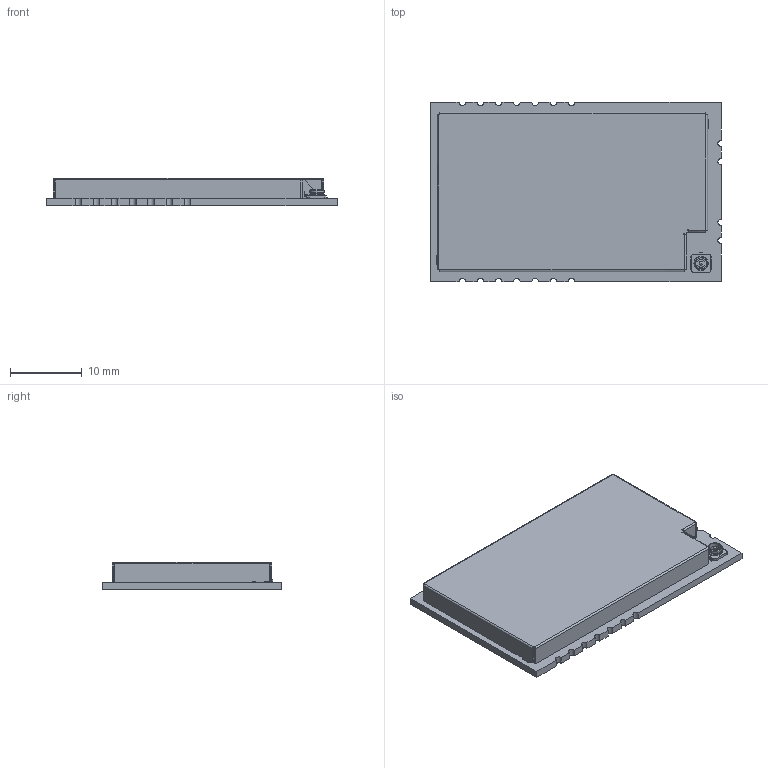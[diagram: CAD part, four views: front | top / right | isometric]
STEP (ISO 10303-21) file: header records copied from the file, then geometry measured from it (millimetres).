
FILE_DESCRIPTION(('Open CASCADE Model'),'2;1');
FILE_NAME('Open CASCADE Shape Model','2023-08-17T15:00:26',('Author'),( 'Open CASCADE'),'Open CASCADE STEP processor 6.8','Open CASCADE 6.8' ,'Unknown');
FILE_SCHEMA(('AUTOMOTIVE_DESIGN { 1 0 10303 214 1 1 1 1 }'));
Length unit declared in the file: millimetre
Products named in the file (109): PCB; Board; Designator11; PBZ-29; C56; CAPC1005X56N_EIA_0402; C61; CAPC1608X92N_EIA_0603; R32; R0402; R31; R27; R26; R25; R24; R23; ANT1; IPEX-RF; C1; C2; C3; C4; C5; C6; C7; C11; C12; C13; C14; C16; C17; C18; C19; C22; C23; C24; C26; C30; C31; C33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
Assembly tree (191 placements, depth 3):
  PCB
    Board
    Designator11
      PBZ-29
    C56
      CAPC1005X56N_EIA_0402
    C61
      CAPC1608X92N_EIA_0603
    R32
      R0402
    R31
      R0402
    R27
      R0402
    R26
      R0402
    R25
      R0402
    R24
      R0402
    R23
      R0402
    ANT1
      IPEX-RF
    C1
      CAPC1005X56N_EIA_0402
    C2
      CAPC1608X92N_EIA_0603
    C3
      CAPC1608X92N_EIA_0603
    C4
      CAPC1608X92N_EIA_0603
    C5
      CAPC1608X92N_EIA_0603
    C6
      CAPC1608X92N_EIA_0603
    C7
      CAPC1005X56N_EIA_0402
    C11
      CAPC1608X92N_EIA_0603
    C12
      CAPC1608X92N_EIA_0603
    C13
      CAPC1005X56N_EIA_0402
    C14
      CAPC1005X56N_EIA_0402
    C16
      CAPC1005X56N_EIA_0402
    C17
      CAPC1005X56N_EIA_0402
    C18
      CAPC1005X56N_EIA_0402
    C19
      CAPC1005X56N_EIA_0402
    C22
      CAPC1005X56N_EIA_0402
    C23
      CAPC1005X56N_EIA_0402
    C24
      CAPC1005X56N_EIA_0402
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Bounding box: 40.5 x 25 x 3.8 mm (x, y, z)
Volume: 1536.7 mm3; surface area: 7187.9 mm2
Topology: 115 solids, 117 shells, 5334 faces, 12382 edges, 6868 vertices
Faces by surface type: plane 2482, cylinder 1608, bspline 656, sphere 570, torus 12, cone 6
Entity records: 128019 total; most frequent: CARTESIAN_POINT 68155, DIRECTION 8991, ORIENTED_EDGE 5740, PCURVE 5740, DEFINITIONAL_REPRESENTATION 5740, LINE 5510, VECTOR 5510, EDGE_CURVE 2871
